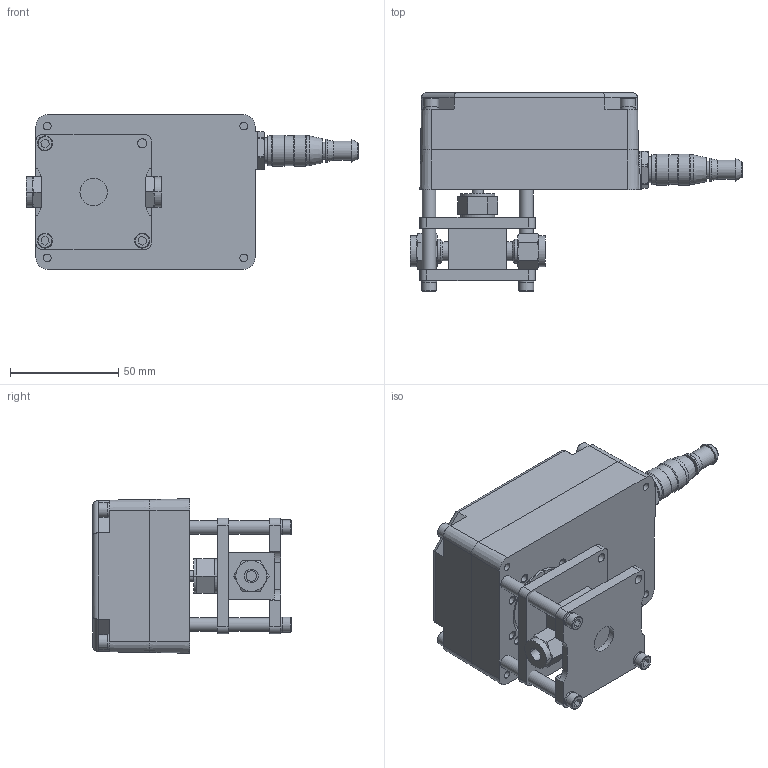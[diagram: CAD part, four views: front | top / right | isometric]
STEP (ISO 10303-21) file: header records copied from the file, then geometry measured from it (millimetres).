
FILE_DESCRIPTION (( 'STEP AP203' ), '1' );
FILE_NAME ('#M-Series Assembly w. SS-20VS4 (Client Copy).STEP', '2020-09-02T16:05:00', ( 'Technician #5' ), ( '' ), 'SwSTEP 2.0', 'SolidWorks 2020', '' );
FILE_SCHEMA (( 'CONFIG_CONTROL_DESIGN' ));
Length unit declared in the file: inch
Products named in the file (16): SS-20VS4; BSNPLN-Q216; 1174B Valve lever (0.198); Turck-Receptacle; Screw 8-32 (2.00); Turck Cable; Thin Standoff (.800); 1106B-cast___; #M-Series Assembly w. SS-20VS4 (Client Copy); Screw 8-32 (1.25); Thin Standoff (.500); 1107-cast___; 1162B (0.500); 1110-1 Drive Wheel (thicker top); 20KF4 Mounting plate (Rev.1); Brass Washer Stamped
Assembly tree (24 placements, depth 2):
  #M-Series Assembly w. SS-20VS4 (Client Copy)
    1106B-cast___
    1107-cast___
    1110-1 Drive Wheel (thicker top)
    Brass Washer Stamped
    BSNPLN-Q216
    Turck-Receptacle
    Turck Cable
    Screw 8-32 (1.25)  x4
    Thin Standoff (.800)  x3
    Thin Standoff (.500)  x3
    1162B (0.500)
    20KF4 Mounting plate (Rev.1)
    SS-20VS4
    1174B Valve lever (0.198)
    Screw 8-32 (2.00)  x3
Bounding box: 153.33 x 91.77 x 71.32 mm (x, y, z)
Volume: 147583 mm3; surface area: 107069.8 mm2
Topology: 26 solids, 28 shells, 967 faces, 2351 edges, 1525 vertices
Faces by surface type: plane 390, cylinder 337, cone 207, torus 21, bspline 12
Full cylindrical faces by diameter (mm): 0.762 x5, 1.016 x5, 2.458 x2, 3.155 x1, 3.175 x1, 3.568 x14, 3.569 x7, 4.064 x7, 4.216 x8, 4.293 x6, 4.914 x4, 5.029 x2, 5.08 x2, 5.41 x4, 6.35 x7, 6.858 x7, 6.985 x7, 8 x1, 8.1 x1, 8.3 x1, 8.8 x1, 9 x1, 9.4 x1, 9.5 x1, 9.55 x1, 9.6 x1, 9.7 x1, 9.9 x1, 10 x2, 10.433 x1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
Entity records: 30716 total; most frequent: CARTESIAN_POINT 9022, DIRECTION 4059, ORIENTED_EDGE 3893, EDGE_CURVE 1948, AXIS2_PLACEMENT_3D 1597, VERTEX_POINT 1349, EDGE_LOOP 1178, FACE_OUTER_BOUND 988
